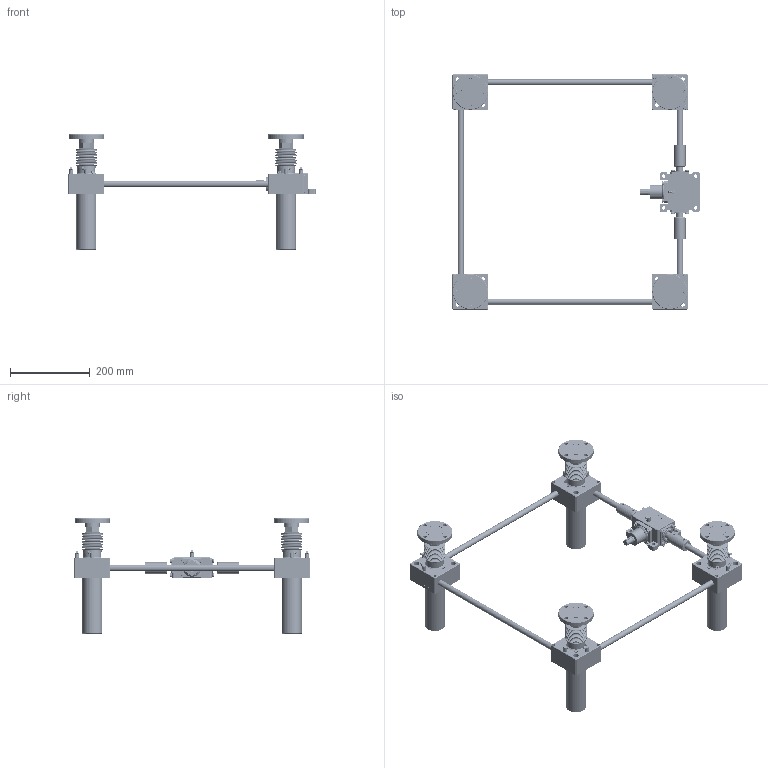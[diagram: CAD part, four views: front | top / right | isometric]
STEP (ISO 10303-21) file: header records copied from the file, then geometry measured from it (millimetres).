
FILE_DESCRIPTION(('STEP AP203'),'1');
FILE_NAME('SPB500FCJ-500x500-250-100ST_CAP.stp','2016-08-18T01:54:55',(' '),(' '),'Spatial InterOp 3D',' ',' ');
FILE_SCHEMA(('CONFIG_CONTROL_DESIGN'));
Length unit declared in the file: millimetre
Products named in the file (196): SPB500FCJ-500x500-250-100ST_CAP; Rack Gear(SP-500FC); Flange.1-Part; Flange.1; Joint.1; Nut.1; Flange.2-Part; Flange.2; Joint.2; Nut.2; Flange.3-Part; Flange.3; Joint.3; Nut.3; Flange.4-Part; Flange.4; Joint.4; Nut.4; Bellow(SP-500); Body.1-Part; Nipple; Bolt; Gear Box.1(Upper); Gear Box.1(Lower); Body_stand by; RJ05-4SCJ-610X600-100ST_CAP; LABEL-B.1; SUNIL __; 파트1; Body.2-Part; Gear Box.2(Upper); Gear Box.2(Lower); Body.3-Part; Gear Box.3(Upper); Gear Box.3(Lower); Body.4-Part; Gear Box.4(Upper); Gear Box.4(Lower); Cap.1-Part; Cap.1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
Assembly tree (199 placements, depth 5):
  SPB500FCJ-500x500-250-100ST_CAP
    Rack Gear(SP-500FC)  x4
    Flange.1-Part
      Flange.1
      Joint.1
      Nut.1
    Flange.2-Part
      Flange.2
      Joint.2
      Nut.2
    Flange.3-Part
      Flange.3
      Joint.3
      Nut.3
    Flange.4-Part
      Flange.4
      Joint.4
      Nut.4
    Bellow(SP-500)
    Bellow(SP-500)
    Bellow(SP-500)
    Bellow(SP-500)
    Body.1-Part
      Nipple
      Nipple
      Bolt
      Bolt
      Bolt
      Bolt
      Bolt
      Gear Box.1(Upper)
      Gear Box.1(Lower)
        Body_stand by
        Body_stand by
        Body_stand by
        Body_stand by
        Body_stand by
        Body_stand by
        Body_stand by
        Body_stand by
        Body_stand by
        Body_stand by
        Body_stand by
        Body_stand by
        Body_stand by
        Body_stand by
        Body_stand by
        Body_stand by
        Body_stand by
        Body_stand by
        Body_stand by
      SUNIL __
        RJ05-4SCJ-610X600-100ST_CAP
          LABEL-B.1
        파트1
    Body.2-Part
      Nipple
      Nipple
      Bolt
      Bolt
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Bounding box: 619.7 x 590.4 x 290 mm (x, y, z)
Volume: 2532464.3 mm3; surface area: 1257040.1 mm2
Topology: 138 solids, 937 shells, 12520 faces, 36695 edges, 25613 vertices
Faces by surface type: plane 10510, cylinder 936, cone 437, revolution 189, bspline 184, extrusion 171, torus 89, sphere 4
Full cylindrical faces by diameter (mm): 2.5 x8, 4.8 x9, 6 x69, 7 x20, 8.5 x4, 9 x8, 9.5 x16, 9.886 x9, 10 x12, 10.5 x40, 13.5 x8, 15 x8, 17 x2, 18 x1, 22 x2, 23 x4, 25 x61, 26 x4, 27 x4, 28 x4, 28.3 x4, 29 x2, 29.5 x4, 30 x2, 34 x2, 35 x3, 36 x1, 37 x4, 38 x4, 40 x4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
Entity records: 417968 total; most frequent: CARTESIAN_POINT 104329, ORIENTED_EDGE 62742, DIRECTION 57966, EDGE_CURVE 33464, VECTOR 28911, LINE 28740, VERTEX_POINT 23940, AXIS2_PLACEMENT_3D 14433
